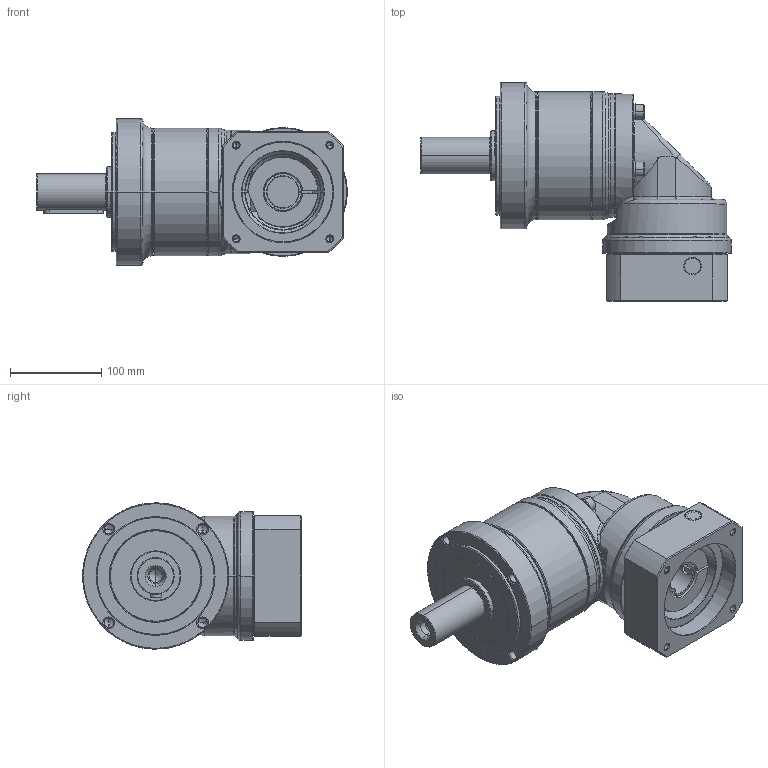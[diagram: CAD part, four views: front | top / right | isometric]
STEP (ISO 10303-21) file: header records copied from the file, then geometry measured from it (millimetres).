
FILE_DESCRIPTION((''),'2;1');
FILE_NAME('PG2R-160_1ST_35-P0411800101_ASM','2016-04-26T',('d01943'),(''),'PRO/ENGINEER BY PARAMETRIC TECHNOLOGY CORPORATION, 2008410','PRO/ENGINEER BY PARAMETRIC TECHNOLOGY CORPORATION, 2008410','');
FILE_SCHEMA(('CONFIG_CONTROL_DESIGN'));
Length unit declared in the file: millimetre
Products named in the file (12): P1325510001; P0250500001; P0350501103; P1349500001; P1017500001; P0713504001; P0503800010; P1350500401; P0411800101; P1702600001; 2111BA10040; PG2R-160_1ST_35-P0411800101_ASM
Assembly tree (14 placements, depth 2):
  PG2R-160_1ST_35-P0411800101_ASM
    P1325510001
    P0250500001
    P0350501103
    P1349500001
    P1017500001
    P0713504001
    P0503800010
    P1350500401
    P0411800101
    P1702600001
    2111BA10040  x4
Bounding box: 340 x 239.5 x 160 mm (x, y, z)
Volume: 3124906.8 mm3; surface area: 496072.9 mm2
Topology: 14 solids, 15 shells, 708 faces, 1557 edges, 904 vertices
Faces by surface type: cylinder 217, cone 196, plane 157, torus 106, bspline 32
Entity records: 22666 total; most frequent: CARTESIAN_POINT 9002, DIRECTION 3035, ORIENTED_EDGE 2638, EDGE_CURVE 1319, AXIS2_PLACEMENT_3D 1286, VERTEX_POINT 784, EDGE_LOOP 687, CIRCLE 683
